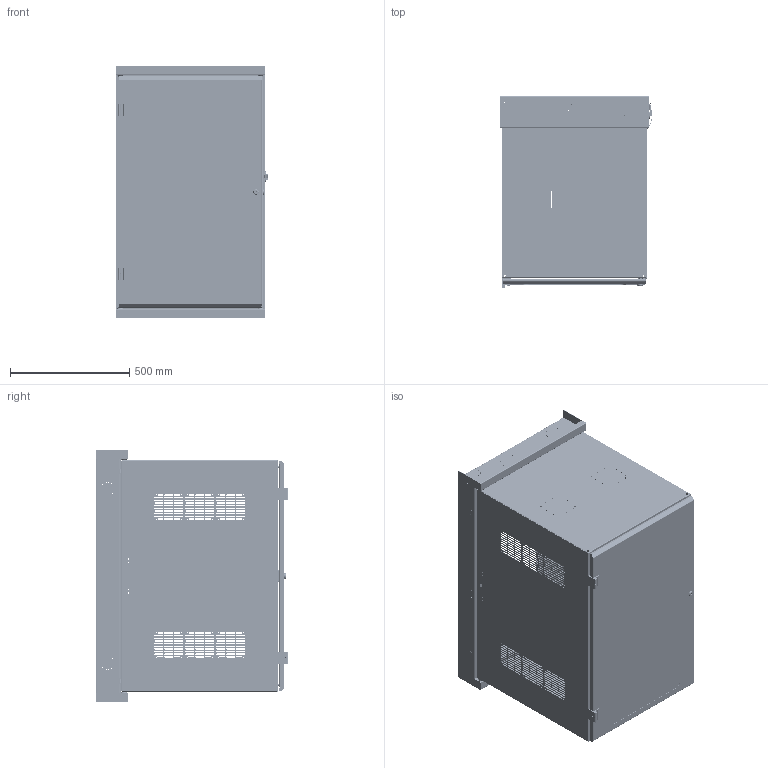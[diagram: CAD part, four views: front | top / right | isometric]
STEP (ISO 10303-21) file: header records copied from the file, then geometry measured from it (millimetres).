
FILE_DESCRIPTION(/* description */ ('Unknown'),/* implementation_level */ '2;1');
FILE_NAME(/* name */ 'HWM2420U26WDBK',/* time_stamp */ '2024-07-29T11:11:48-04:00',/* author */ ('Unknown'),/* organization */ ('Unknown'),/* preprocessor_version */ 'ST-DEVELOPER v18.104',/* originating_system */ 'Solid Edge',/* authorisation */ 'Unknown');
FILE_SCHEMA (('AUTOMOTIVE_DESIGN {1 0 10303 214 3 1 1}'));
Products named in the file (49): HWM2420U26WD; COM57687-6; COM56894-3T; STD21878; COM57684-6; HNG14583; COM54375; COM57382-22; COM57384-2; COM57383-1; BSH87667; COM56897-2; FET07734; STR22105; CCH03747; CCH03748-10deg; CCH03748D; CCH03748B; CCH03748E; CCH03748A; CCH03748C; COM56905; LOC13349; LOC13349B; LOC13349A; LAB20204; COM57690-20U; FET07750; COM56910-2; COM57690-2; std26020; COM57333-42; LOC13410; LOC13410B; HNG14605; HNG14605-1; HNG14604-1A; HNG14604-1B; HNG14605-1C; HNG14604-2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
Assembly tree (84 placements, depth 5):
  HWM2420U26WD
    COM57687-6
      COM56894-3T  x2
        STD21878
        COM56894-3T
      COM57684-6  x2
      HNG14583
      COM54375
    COM57382-22
      COM57384-2  x2
      COM57383-1  x2
        STD21878
        COM57383-1
      BSH87667  x4
    COM56897-2  x2
    FET07734  x4
    STR22105
    CCH03747
    CCH03748-10deg
      CCH03748D
      CCH03748B
      CCH03748E
      CCH03748A
      CCH03748C
    COM56905
    LOC13349
      LOC13349B
      LOC13349A
    LAB20204
    COM57690-20U
      FET07750  x2
      COM56910-2  x2
      COM57690-2
        COM57690-2
        std26020  x8
      COM57333-42
      LOC13410
        LOC13410B
        LOC13349A
      HNG14605
        HNG14605-1
          HNG14604-1A
          HNG14604-1B
          HNG14605-1C
        HNG14604-2  x2
        HNG14605-3
      HNG14604
        HNG14604-3
        HNG14604-2  x2
        HNG14604-1
          HNG14604-1A
          HNG14604-1B
          HNG14604-1C
      NTS17050  x6
Bounding box: 641.2 x 807.27 x 1062.02 mm (x, y, z)
Volume: 8041073.3 mm3; surface area: 9404994.7 mm2
Topology: 77 solids, 77 shells, 5150 faces, 14279 edges, 9532 vertices
Faces by surface type: plane 3094, cylinder 1936, bspline 53, cone 46, torus 17, sphere 4
Full cylindrical faces by diameter (mm): 2.54 x2, 3.048 x2, 3.175 x46, 3.454 x4, 3.962 x8, 3.967 x6, 4.039 x8, 4.297 x2, 4.496 x120, 4.775 x58, 4.978 x1, 5.334 x6, 5.461 x2, 5.537 x8, 6 x4, 6.02 x2, 6.1 x2, 6.2 x8, 6.35 x22, 7.137 x8, 7.938 x12, 8.992 x2, 9.246 x4, 9.95 x8, 10 x2, 10.312 x12, 11.125 x2, 11.684 x2, 12.7 x12, 13.005 x1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
Entity records: 92607 total; most frequent: CARTESIAN_POINT 18578, DIRECTION 14948, ORIENTED_EDGE 14706, EDGE_CURVE 7353, AXIS2_PLACEMENT_3D 5085, VERTEX_POINT 5008, LINE 4778, VECTOR 4778
